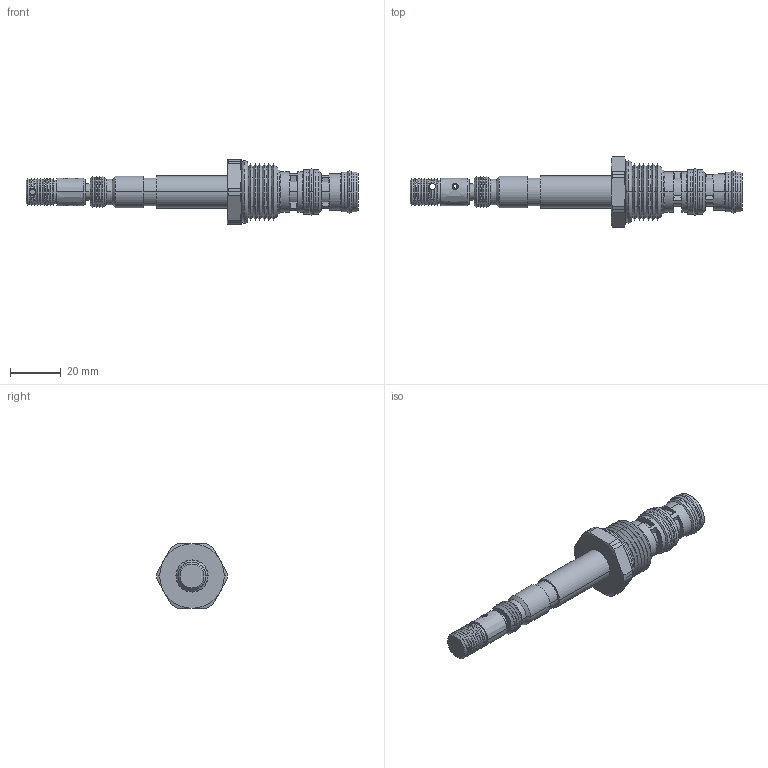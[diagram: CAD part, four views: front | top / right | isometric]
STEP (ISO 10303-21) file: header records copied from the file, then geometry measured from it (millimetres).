
FILE_DESCRIPTION((''),'2;1');
FILE_NAME('U:\Solid model CD\Solid model full\Solenoid\STEP\DFS3B0M-3D Full.stp','2008-06-23T08:28:09',('Dan'),(''),'Autodesk Inventor 9','Autodesk Inventor 9','');
FILE_SCHEMA(('AUTOMOTIVE_DESIGN { 1 0 10303 214 1 1 1 1 }'));
Length unit declared in the file: inch
Products named in the file (11): DFS3B0M-3D Full; DFS3B0M-3D Full1; DFS3B0M-3D Full2; DFS3B0M-3D Full3; DFS3B0M-3D Full4; DFS3B0M-3D Full5; DFS3B0M-3D Full6; DFS3B0M-3D Full7; DFS3B0M-3D Full8; DFS3B0M-3D Full9; DFS3B0M-3D Full10
Assembly tree (10 placements, depth 2):
  DFS3B0M-3D Full
    DFS3B0M-3D Full1
    DFS3B0M-3D Full2
    DFS3B0M-3D Full3
    DFS3B0M-3D Full4
    DFS3B0M-3D Full5
    DFS3B0M-3D Full6
    DFS3B0M-3D Full7
    DFS3B0M-3D Full8
    DFS3B0M-3D Full9
    DFS3B0M-3D Full10
Bounding box: 130.94 x 27.76 x 25.4 mm (x, y, z)
Volume: 21679.8 mm3; surface area: 10781.4 mm2
Topology: 10 solids, 10 shells, 432 faces, 988 edges, 582 vertices
Faces by surface type: bspline 421, cylinder 8, cone 2, plane 1
Entity records: 18442 total; most frequent: CARTESIAN_POINT 9992, ORIENTED_EDGE 1976, DIRECTION 1402, EDGE_CURVE 988, VERTEX_POINT 582, AXIS2_PLACEMENT_3D 540, CIRCLE 508, EDGE_LOOP 458
